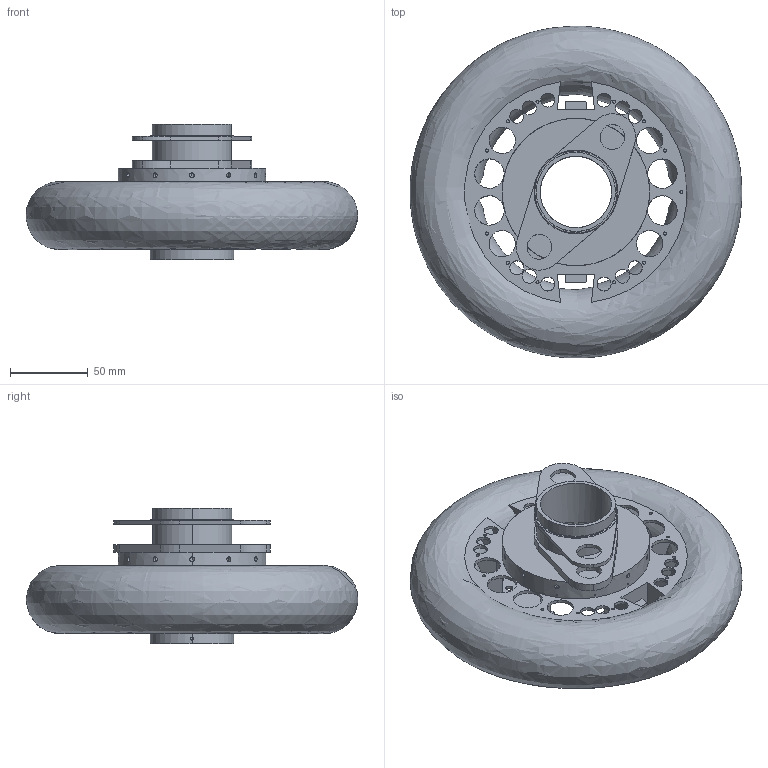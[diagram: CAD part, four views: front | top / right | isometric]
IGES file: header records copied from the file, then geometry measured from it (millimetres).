
Start section: IMSI TurboCAD v14.0
Global section: author: NULL; organization: NULL; date: 20231227.191912; units: millimetre
Bounding box: 213.87 x 213.87 x 87.6 mm (x, y, z)
Surface area: 250355.5 mm2 (no closed solid volume)
Topology: 0 solids, 0 shells, 690 faces, 4363 edges, 4358 vertices
Faces by surface type: revolution 474, extrusion 216
